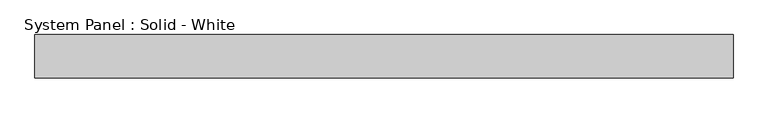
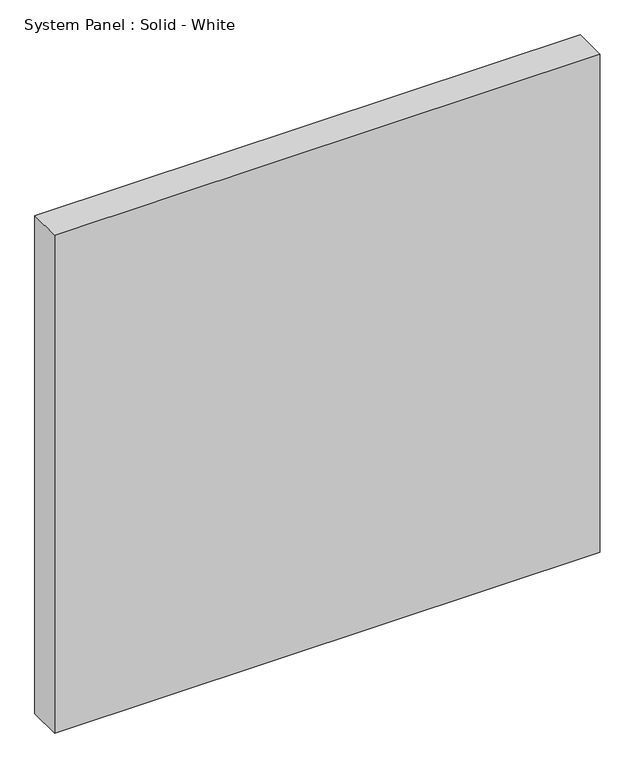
"""IFC4 building model written with IfcOpenShell, lengths in millimetres: plate geometry, System Panel : Solid - White."""

from ifc_helpers import new_model, si_unit, origin, origin_with_axes, place, context, project, spatial, polyline, outline, extrude, source, transform, mapped, element, save


def system_panel_solid_white_17b6a00f(model_context):
    return source(origin(), model_context, "Body", "SweptSolid", [
        extrude(outline(polyline([(510.2678571, -19.05), (-510.2678571, -19.05), (-510.2678571, 44.45), (510.2678571, 44.45), (510.2678571, -19.05)])), origin_with_axes(), (0.0, 0.0, 1.0), 984.3895219),
    ])


if __name__ == "__main__":
    model = new_model("IFC4")
    model_context = context("Model", 3, world=origin())
    ifc_project = project(units=[si_unit("LENGTHUNIT", "METRE", prefix="MILLI")], contexts=[model_context])
    site = spatial("IfcSite", under=ifc_project)
    building = spatial("IfcBuilding", under=site)
    placement = place(None, origin())
    system_panel_solid_white_shape = system_panel_solid_white_17b6a00f(model_context)
    element("IfcPlate", 1, ObjectType="System Panel : Solid - White", at=placement, inside=building, context=model_context, shape_type="MappedRepresentation", body=[
        mapped(system_panel_solid_white_shape, transform((0.0, 0.0, 0.0), x_axis=(1.0, 0.0, 0.0), y_axis=(0.0, 1.0, 0.0), z_axis=(0.0, 0.0, 1.0))),
    ])
    save(model, "model.ifc")
